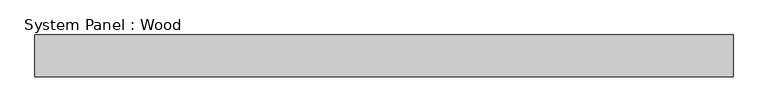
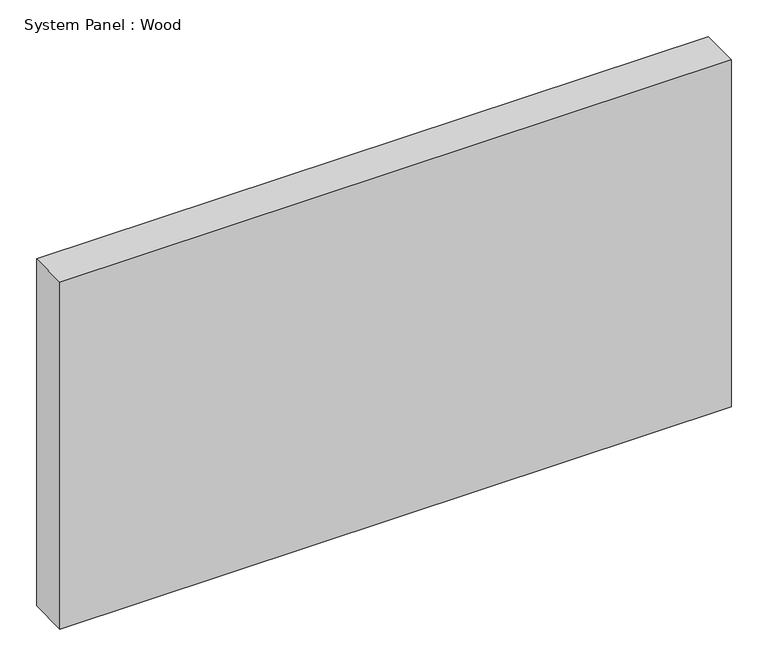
"""IFC4 building model written with IfcOpenShell, lengths in millimetres: plate geometry, System Panel : Wood."""

import ifcopenshell
import ifcopenshell.guid

model = None  # the IFC model being written
_history = None  # IfcOwnerHistory: only IFC2X3 demands one
_inside = {}  # id of a spatial element -> (the spatial element, [elements in it])
_under = {}  # id of a project, library or spatial element -> (it, [spatial elements below it])
_declared = {}  # id of a project -> (the project, [libraries it declares])
_typed = {}  # id of a type object -> (the type object, [elements of that type])
_made_of = {}  # id of a material, layer set ... -> (it, [elements and type objects made of it])


def new_model(schema):
    """Start an empty IFC model of exactly this schema.

    Asked for "IFC4X3", IfcOpenShell would pick the latest addendum, in which some entities
    have other attributes; the version numbers below select the first issue.
    IFC2X3 requires an IfcOwnerHistory on every rooted entity: one is made here for all.
    """
    global model, _history
    if schema == "IFC4X3":
        model = ifcopenshell.file(schema_version=(4, 3, 0, 0))
    else:
        model = ifcopenshell.file(schema=schema)
    _inside.clear()
    _under.clear()
    _declared.clear()
    _typed.clear()
    _made_of.clear()
    _history = None
    if model.schema == "IFC2X3":
        org = make("IfcOrganization", Name="unknown")
        user = make(
            "IfcPersonAndOrganization",
            ThePerson=make("IfcPerson", FamilyName="unknown"),
            TheOrganization=org,
        )
        app = make(
            "IfcApplication",
            ApplicationDeveloper=org,
            Version="unknown",
            ApplicationFullName="unknown",
            ApplicationIdentifier="unknown",
        )
        _history = make(
            "IfcOwnerHistory",
            OwningUser=user,
            OwningApplication=app,
            ChangeAction="ADDED",
            CreationDate=0,
        )
    return model


def make(cls, **values):
    """One entity of the class cls with the attributes given. An attribute that is None is left unset."""
    return model.create_entity(
        cls, **{name: value for name, value in values.items() if value is not None}
    )


def rooted(cls, **values):
    """An entity with a GlobalId (a new one), such as an element, a storey or a relation."""
    return make(cls, GlobalId=ifcopenshell.guid.new(), OwnerHistory=_history, **values)


def si_unit(unit_type, name, prefix=None):
    """IfcSIUnit, for example si_unit("LENGTHUNIT", "METRE", prefix="MILLI")."""
    return make("IfcSIUnit", UnitType=unit_type, Prefix=prefix, Name=name)


def assignment(units):
    """IfcUnitAssignment: the units of a project."""
    return None if units is None else make("IfcUnitAssignment", Units=units)


def point(xyz):
    """IfcCartesianPoint."""
    return None if xyz is None else make("IfcCartesianPoint", Coordinates=xyz)


def direction(xyz):
    """IfcDirection."""
    return None if xyz is None else make("IfcDirection", DirectionRatios=xyz)


def frame(location, z_axis=None, x_axis=None):
    """IfcAxis2Placement3D, a coordinate frame: its origin and axes. An axis left out is left unset."""
    return make(
        "IfcAxis2Placement3D",
        Location=point(location),
        Axis=direction(z_axis),
        RefDirection=direction(x_axis),
    )


def origin():
    """The frame at (0, 0, 0) with its axes left unset."""
    return frame((0.0, 0.0, 0.0))


def origin_with_axes():
    """The frame at (0, 0, 0) with the z axis (0, 0, 1) and the x axis (1, 0, 0) written out."""
    return frame((0.0, 0.0, 0.0), z_axis=(0.0, 0.0, 1.0), x_axis=(1.0, 0.0, 0.0))


def place(relative_to, where):
    """IfcLocalPlacement: puts the frame where relative to a parent placement (None: the world)."""
    return make(
        "IfcLocalPlacement", PlacementRelTo=relative_to, RelativePlacement=where
    )


def context(
    kind, dimensions, precision=None, world=None, true_north=None, identifier=None
):
    """IfcGeometricRepresentationContext, for example the 3D "Model" context."""
    return make(
        "IfcGeometricRepresentationContext",
        ContextIdentifier=identifier,
        ContextType=kind,
        CoordinateSpaceDimension=dimensions,
        Precision=precision,
        WorldCoordinateSystem=world,
        TrueNorth=true_north,
    )


def project(units=None, contexts=None):
    """IfcProject with its units and contexts."""
    return rooted(
        "IfcProject",
        Name="project",
        RepresentationContexts=contexts,
        UnitsInContext=assignment(units),
    )


def spatial(cls, under=None, at=None, **own):
    """A site, building, storey or space (cls), placed at a placement, below another one or the project."""
    s = rooted(cls, ObjectPlacement=at, **own)
    if under is not None:
        _under.setdefault(under.id(), (under, []))[1].append(s)
    return s


def polyline(points):
    """IfcPolyline through the points."""
    return make("IfcPolyline", Points=[point(p) for p in points])


def outline(outer, holes=None, kind="AREA"):
    """IfcArbitraryClosedProfileDef: a profile drawn as a closed curve; with holes, ...WithVoids."""
    if holes is None:
        return make("IfcArbitraryClosedProfileDef", ProfileType=kind, OuterCurve=outer)
    return make(
        "IfcArbitraryProfileDefWithVoids",
        ProfileType=kind,
        OuterCurve=outer,
        InnerCurves=holes,
    )


def extrude(swept, where, along, depth):
    """IfcExtrudedAreaSolid: the profile swept, set in the frame where, extruded along a direction by depth."""
    return make(
        "IfcExtrudedAreaSolid",
        SweptArea=swept,
        Position=where,
        ExtrudedDirection=direction(along),
        Depth=depth,
    )


def shape(context_of_items, identifier, shape_type, items):
    """IfcShapeRepresentation: the items that make up one representation, for example the "Body"."""
    return make(
        "IfcShapeRepresentation",
        ContextOfItems=context_of_items,
        RepresentationIdentifier=identifier,
        RepresentationType=shape_type,
        Items=items,
    )


def source(mapping_origin, context_of_items, identifier, shape_type, items):
    """IfcRepresentationMap: a shape defined once, which mapped items show again and again."""
    return make(
        "IfcRepresentationMap",
        MappingOrigin=mapping_origin,
        MappedRepresentation=shape(context_of_items, identifier, shape_type, items),
    )


def transform(
    local_origin,
    x_axis=None,
    y_axis=None,
    z_axis=None,
    scale=None,
    scale2=None,
    scale3=None,
    uniform=True,
):
    """IfcCartesianTransformationOperator3D, or its non-uniform kind. x_axis, y_axis, z_axis: its Axis1, 2, 3."""
    if uniform:
        return make(
            "IfcCartesianTransformationOperator3D",
            Axis1=direction(x_axis),
            Axis2=direction(y_axis),
            LocalOrigin=point(local_origin),
            Scale=scale,
            Axis3=direction(z_axis),
        )
    return make(
        "IfcCartesianTransformationOperator3DnonUniform",
        Axis1=direction(x_axis),
        Axis2=direction(y_axis),
        LocalOrigin=point(local_origin),
        Scale=scale,
        Axis3=direction(z_axis),
        Scale2=scale2,
        Scale3=scale3,
    )


def mapped(mapping_source, mapping_target):
    """IfcMappedItem: shows the shape of a source again, moved by a transform."""
    return make(
        "IfcMappedItem", MappingSource=mapping_source, MappingTarget=mapping_target
    )


def made_of(thing, what):
    """Note that an element or type object is made of a material, layer set ...; save() writes the relation."""
    if what is not None:
        _made_of.setdefault(what.id(), (what, []))[1].append(thing)
    return thing


def element(
    cls,
    number,
    at=None,
    inside=None,
    cuts=None,
    type_object=None,
    material=None,
    context=None,
    identifier="Body",
    shape_type=None,
    held_by="IfcProductDefinitionShape",
    body=None,
    shapes=None,
    **own,
):
    """One element of the class cls, such as IfcWall. Its Tag is "e" and its number.

    at: its placement. inside: the storey or other place that contains it. cuts: it is an
    opening in that element (IfcRelVoidsElement). A single representation is given by context,
    identifier, shape_type and body (its items); several are given by shapes. held_by: the class
    of the entity that holds the representations. save() writes the other relations.
    """
    e = rooted(cls, Tag="e%d" % number, ObjectPlacement=at, **own)
    if body is not None:
        shapes = [shape(context, identifier, shape_type, body)]
    if shapes is not None:
        e.Representation = make(held_by, Representations=shapes)
    if inside is not None:
        _inside.setdefault(inside.id(), (inside, []))[1].append(e)
    if cuts is not None:
        rooted(
            "IfcRelVoidsElement", RelatingBuildingElement=cuts, RelatedOpeningElement=e
        )
    if type_object is not None:
        _typed.setdefault(type_object.id(), (type_object, []))[1].append(e)
    return made_of(e, material)


def aggregate(whole, parts):
    """IfcRelAggregates: a whole, such as a stair, and the parts it consists of."""
    return rooted("IfcRelAggregates", RelatingObject=whole, RelatedObjects=parts)


def save(model, path):
    """Write the relations noted so far, then the file.

    IfcRelAggregates (storeys below a building ...), IfcRelContainedInSpatialStructure (elements
    in a storey), IfcRelDefinesByType, IfcRelAssociatesMaterial and IfcRelDeclares: one each for
    every whole, place, type object, material and project.
    """
    for whole, parts in _under.values():
        aggregate(whole, parts)
    for where, things in _inside.values():
        rooted(
            "IfcRelContainedInSpatialStructure",
            RelatedElements=things,
            RelatingStructure=where,
        )
    for kind, things in _typed.values():
        rooted("IfcRelDefinesByType", RelatedObjects=things, RelatingType=kind)
    for what, things in _made_of.values():
        rooted("IfcRelAssociatesMaterial", RelatedObjects=things, RelatingMaterial=what)
    for by, libraries in _declared.values():
        rooted("IfcRelDeclares", RelatingContext=by, RelatedDefinitions=libraries)
    model.write(path)


def system_panel_wood_72b3a4bc(model_context):
    return source(origin(), model_context, "Body", "SweptSolid", [
        extrude(outline(polyline([(528.955, -44.45), (-528.955, -44.45), (-528.955, 19.05), (528.955, 19.05), (528.955, -44.45)])), origin_with_axes(), (0.0, 0.0, 1.0), 577.85),
    ])


if __name__ == "__main__":
    model = new_model("IFC4")
    model_context = context("Model", 3, world=origin())
    ifc_project = project(units=[si_unit("LENGTHUNIT", "METRE", prefix="MILLI")], contexts=[model_context])
    site = spatial("IfcSite", under=ifc_project)
    building = spatial("IfcBuilding", under=site)
    placement = place(None, origin())
    system_panel_wood_shape = system_panel_wood_72b3a4bc(model_context)
    element("IfcPlate", 1, ObjectType="System Panel : Wood", at=placement, inside=building, context=model_context, shape_type="MappedRepresentation", body=[
        mapped(system_panel_wood_shape, transform((0.0, 0.0, 0.0), x_axis=(1.0, 0.0, 0.0), y_axis=(0.0, 1.0, 0.0), z_axis=(0.0, 0.0, 1.0))),
    ])
    save(model, "model.ifc")
